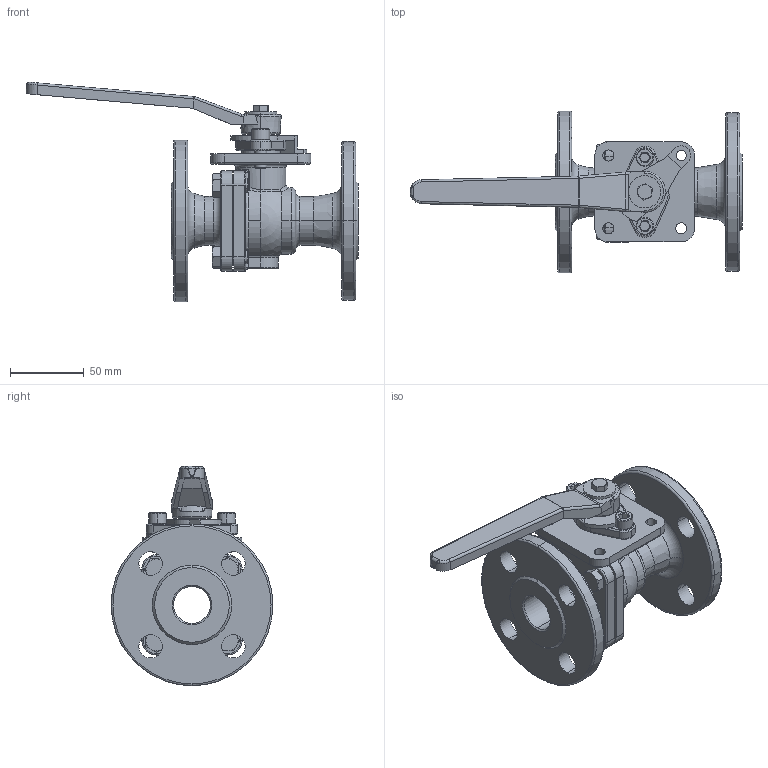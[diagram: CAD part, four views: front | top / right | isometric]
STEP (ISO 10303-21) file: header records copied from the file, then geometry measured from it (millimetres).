
FILE_DESCRIPTION(('Open CASCADE Model'),'2;1');
FILE_NAME('Open CASCADE Shape Model','2021-11-19T08:33:08',('Author'),( 'Open CASCADE'),'Open CASCADE STEP processor 7.3','Open CASCADE 7.3' ,'Unknown');
FILE_SCHEMA(('AUTOMOTIVE_DESIGN { 1 0 10303 214 1 1 1 1 }'));
Length unit declared in the file: millimetre
Products named in the file (24): Open CASCADE STEP translator 7.3 1; Open CASCADE STEP translator 7.3 1.1; Open CASCADE STEP translator 7.3 1.2; Open CASCADE STEP translator 7.3 1.3; Open CASCADE STEP translator 7.3 1.4; Open CASCADE STEP translator 7.3 1.5; Open CASCADE STEP translator 7.3 1.6; Open CASCADE STEP translator 7.3 1.7; Open CASCADE STEP translator 7.3 1.8; Open CASCADE STEP translator 7.3 1.9; Open CASCADE STEP translator 7.3 1.10; Open CASCADE STEP translator 7.3 1.11; Open CASCADE STEP translator 7.3 1.12; Open CASCADE STEP translator 7.3 1.13; Open CASCADE STEP translator 7.3 1.14; Open CASCADE STEP translator 7.3 1.15; Open CASCADE STEP translator 7.3 1.16; Open CASCADE STEP translator 7.3 1.17; Open CASCADE STEP translator 7.3 1.18; Open CASCADE STEP translator 7.3 1.19; Open CASCADE STEP translator 7.3 1.20; Open CASCADE STEP translator 7.3 1.21; Open CASCADE STEP translator 7.3 1.22; Open CASCADE STEP translator 7.3 1.23
Assembly tree (23 placements, depth 2):
  Open CASCADE STEP translator 7.3 1
    Open CASCADE STEP translator 7.3 1.1
    Open CASCADE STEP translator 7.3 1.2
    Open CASCADE STEP translator 7.3 1.3
    Open CASCADE STEP translator 7.3 1.4
    Open CASCADE STEP translator 7.3 1.5
    Open CASCADE STEP translator 7.3 1.6
    Open CASCADE STEP translator 7.3 1.7
    Open CASCADE STEP translator 7.3 1.8
    Open CASCADE STEP translator 7.3 1.9
    Open CASCADE STEP translator 7.3 1.10
    Open CASCADE STEP translator 7.3 1.11
    Open CASCADE STEP translator 7.3 1.12
    Open CASCADE STEP translator 7.3 1.13
    Open CASCADE STEP translator 7.3 1.14
    Open CASCADE STEP translator 7.3 1.15
    Open CASCADE STEP translator 7.3 1.16
    Open CASCADE STEP translator 7.3 1.17
    Open CASCADE STEP translator 7.3 1.18
    Open CASCADE STEP translator 7.3 1.19
    Open CASCADE STEP translator 7.3 1.20
    Open CASCADE STEP translator 7.3 1.21
    Open CASCADE STEP translator 7.3 1.22
    Open CASCADE STEP translator 7.3 1.23
Bounding box: 225.77 x 110 x 149.3 mm (x, y, z)
Volume: 388651.7 mm3; surface area: 143425.2 mm2
Topology: 23 solids, 23 shells, 695 faces, 1646 edges, 1013 vertices
Faces by surface type: cylinder 279, plane 212, cone 102, torus 60, sphere 22, bspline 20
Entity records: 59629 total; most frequent: CARTESIAN_POINT 26585, DIRECTION 6186, ORIENTED_EDGE 3266, PCURVE 3266, DEFINITIONAL_REPRESENTATION 3266, LINE 3011, VECTOR 3011, EDGE_CURVE 1633
